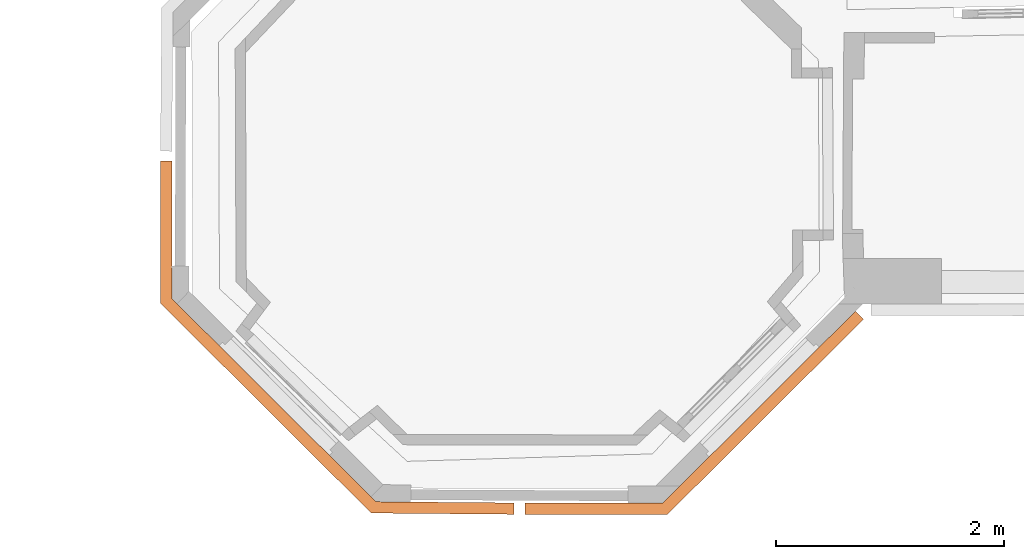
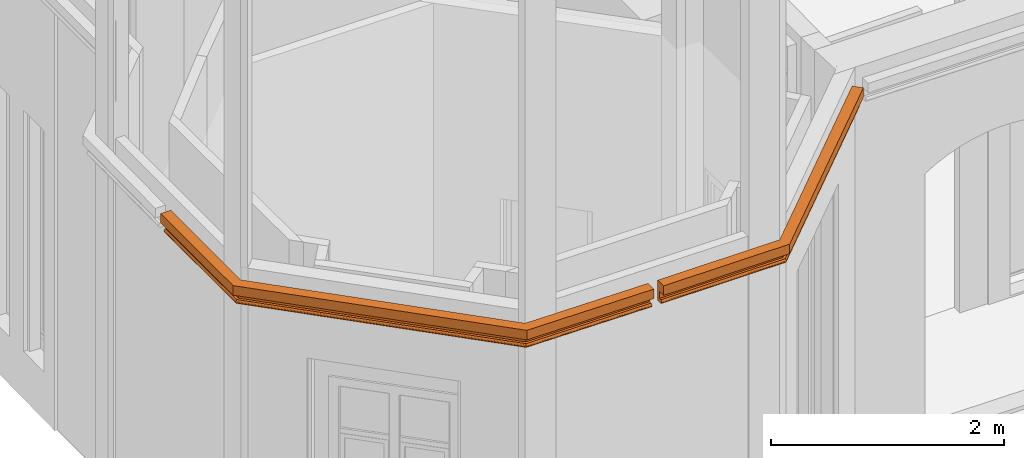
# One storey, part 83 of 97: 2 proxies.
"""IFC2X3 building model written with IfcOpenShell, lengths in centimetres."""

from ifc_helpers import new_model, entity, si_unit, converted_unit, direction, origin, origin_with_axes, place, context, subcontext, project, spatial, faceted_brep, material, type_object, element, save


model = new_model("IFC2X3")

# Units and contexts
model_context = context("Model", 3, precision=0.0001, world=origin(), true_north=direction((0.225632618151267, 0.974212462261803, 0.0)))
body_context = subcontext(model_context, "Body", "Model", "MODEL_VIEW")
ifc_project = project(units=[si_unit("LENGTHUNIT", "METRE", prefix="CENTI"), si_unit("AREAUNIT", "SQUARE_METRE", prefix="CENTI"), si_unit("VOLUMEUNIT", "CUBIC_METRE", prefix="CENTI"), converted_unit("PLANEANGLEUNIT", "DEGREE", entity("IfcRatioMeasure", 0.0174532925), si_unit("PLANEANGLEUNIT", "RADIAN"), dimensions=[0, 0, 0, 0, 0, 0, 0])], contexts=[model_context])

# Site, building, storey
site_placement = place(None, origin_with_axes())
site = spatial("IfcSite", under=ifc_project, at=site_placement, Name="Default Site", CompositionType="ELEMENT")
building_placement = place(site_placement, origin_with_axes())
building = spatial("IfcBuilding", under=site, at=building_placement, Name="Default Building", CompositionType="ELEMENT")
storey_placement = place(building_placement, origin_with_axes())
storey = spatial("IfcBuildingStorey", under=building, at=storey_placement, Name="Rez-de-chaussée", CompositionType="ELEMENT", Elevation=0.0)

# Proxies
ifc_material = material(Name="Aluminium mat")
building_element_proxy_type = type_object("IfcBuildingElementProxyType", Name="Corniche niv1", PredefinedType="NOTDEFINED", material=ifc_material)
proxy_1_placement = place(storey_placement, origin_with_axes())
element("IfcBuildingElementProxy", 1, at=proxy_1_placement, inside=storey, type_object=building_element_proxy_type, material=ifc_material, Name="Extrusion (solide) 954635", context=body_context, shape_type="Brep", body=[
    faceted_brep([(-833.801555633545, -1145.31154632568, 464.400005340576), (-829.677867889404, -1155.29775619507, 464.400005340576), (-658.041095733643, -984.409427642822, 464.400005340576), (-665.086936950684, -977.33268737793, 464.400005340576), (-829.677867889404, -1155.29775619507, 454.400014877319), (-658.041097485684, -984.409425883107, 454.400014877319), (-658.041097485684, -984.409425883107, 464.400005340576), (-832.562732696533, -1148.3115196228, 454.400014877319), (-662.97025680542, -979.458618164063, 454.400014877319), (-658.041095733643, -984.409427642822, 454.400014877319), (-832.562732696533, -1148.3115196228, 447.100019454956), (-662.97028115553, -979.458593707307, 447.100019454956), (-662.97028115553, -979.458593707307, 454.400014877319), (-831.543445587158, -1150.78001022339, 447.100019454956), (-661.228609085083, -981.207942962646, 447.100019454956), (-662.97025680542, -979.458618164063, 447.100019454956), (-831.396198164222, -1151.13649379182, 446.875572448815), (-660.977114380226, -981.460486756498, 446.875596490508), (-661.228622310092, -981.207929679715, 447.099989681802), (-831.396198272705, -1151.13649368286, 446.87557220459), (-831.268403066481, -1151.44605922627, 446.589903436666), (-660.758694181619, -981.679908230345, 446.589886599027), (-660.977106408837, -981.460494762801, 446.875601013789), (-831.268405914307, -1151.44605636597, 446.58989906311), (-831.164255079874, -1151.69831286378, 446.252546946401), (-660.580724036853, -981.858641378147, 446.252543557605), (-660.758700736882, -981.679901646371, 446.589883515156), (-831.164264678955, -1151.69830322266, 446.252536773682), (-831.087216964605, -1151.88473734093, 445.874827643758), (-660.449182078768, -981.990803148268, 445.874826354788), (-660.580731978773, -981.858633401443, 446.252535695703), (-831.087207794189, -1151.88474655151, 445.874834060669), (-831.039977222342, -1151.99921126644, 445.469484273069), (-660.368398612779, -982.071872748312, 445.469473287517), (-660.449177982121, -981.990807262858, 445.874831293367), (-831.040000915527, -1151.99918746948, 445.46947479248), (-831.024092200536, -1152.03779355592, 445.049998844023), (-660.341216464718, -982.099197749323, 445.049994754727), (-660.368427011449, -982.071844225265, 445.469470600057), (-831.024074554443, -1152.0378112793, 445.050001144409), (-831.039983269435, -1151.99920519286, 444.630525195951), (-660.368409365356, -982.071861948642, 444.630529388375), (-660.341198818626, -982.0992154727, 445.050005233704), (-831.040000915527, -1151.99918746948, 444.630527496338), (-831.087231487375, -1151.88472275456, 444.225177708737), (-660.449201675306, -981.990783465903, 444.225180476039), (-660.368422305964, -982.071848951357, 444.63053848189), (-831.087207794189, -1151.88474655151, 444.225168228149), (-831.164255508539, -1151.69831243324, 443.847459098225), (-660.580722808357, -981.858642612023, 443.847460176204), (-660.449172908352, -981.990812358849, 444.225169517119), (-831.164264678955, -1151.69830322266, 443.847465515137), (-831.268415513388, -1151.44604672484, 443.510113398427), (-660.758710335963, -981.679892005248, 443.510128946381), (-660.580733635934, -981.858631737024, 443.847468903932), (-831.268405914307, -1151.44605636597, 443.510103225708), (-831.396201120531, -1151.13649082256, 443.224434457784), (-660.977109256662, -981.460491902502, 443.224405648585), (-660.758697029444, -981.679905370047, 443.510120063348), (-831.396198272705, -1151.13649368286, 443.224430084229), (-831.543445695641, -1150.78001011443, 442.999983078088), (-661.228622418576, -981.207929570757, 443.000012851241), (-660.977114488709, -981.46048664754, 443.224406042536), (-831.543445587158, -1150.78001022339, 442.999982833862), (-833.801555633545, -1145.31154632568, 442.999982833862), (-665.086936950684, -977.33268737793, 442.999982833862), (-661.228609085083, -981.207942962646, 442.999982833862), (-665.08696794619, -977.332656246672, 464.400005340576), (-665.08696794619, -977.332656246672, 442.999982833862), (-954.650020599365, -1145.31154632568, 464.400005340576), (-954.650020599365, -1155.29775619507, 464.400005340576), (-954.650020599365, -1155.29775619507, 454.400014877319), (-954.650020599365, -1148.3115196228, 454.400014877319), (-954.650020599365, -1148.3115196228, 447.100019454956), (-954.650020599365, -1150.78001022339, 447.100019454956), (-954.650020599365, -1151.13650247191, 446.875586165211), (-831.396198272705, -1151.13650247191, 446.875586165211), (-954.650020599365, -1151.13649368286, 446.87557220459), (-954.650020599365, -1151.44604851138, 446.589890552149), (-831.268405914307, -1151.44604851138, 446.589890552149), (-954.650020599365, -1151.44605636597, 446.58989906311), (-954.650020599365, -1151.69830773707, 446.25254014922), (-831.164264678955, -1151.69830773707, 446.25254014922), (-954.650020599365, -1151.69830322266, 446.252536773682), (-954.650020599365, -1151.88477216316, 445.874846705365), (-831.087207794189, -1151.88477216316, 445.874846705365), (-954.650020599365, -1151.88474655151, 445.874834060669), (-954.650020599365, -1151.99918858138, 445.469475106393), (-831.040000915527, -1151.99918858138, 445.469475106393), (-954.650020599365, -1151.99918746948, 445.46947479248), (-954.650020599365, -1152.03777036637, 445.0499973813), (-831.024074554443, -1152.03777036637, 445.0499973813), (-954.650020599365, -1152.0378112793, 445.050001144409), (-954.650020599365, -1151.99922838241, 444.630523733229), (-831.040000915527, -1151.99922838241, 444.630523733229), (-954.650020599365, -1151.99918746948, 444.630527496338), (-954.650020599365, -1151.88474543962, 444.225168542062), (-831.087207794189, -1151.88474543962, 444.225168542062), (-954.650020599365, -1151.88474655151, 444.225168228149), (-954.650020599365, -1151.69827761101, 443.847478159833), (-831.164264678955, -1151.69827761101, 443.847478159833), (-954.650020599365, -1151.69830322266, 443.847465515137), (-954.650020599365, -1151.44605185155, 443.510106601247), (-831.268405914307, -1151.44605185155, 443.510106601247), (-954.650020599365, -1151.44605636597, 443.510103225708), (-954.650020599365, -1151.13650153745, 443.224421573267), (-831.396198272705, -1151.13650153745, 443.224421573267), (-954.650020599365, -1151.13649368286, 443.224430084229), (-954.650020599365, -1150.78000143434, 442.999996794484), (-831.543445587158, -1150.78000143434, 442.999996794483), (-831.396198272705, -1151.13649368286, 443.224430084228), (-954.650020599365, -1150.78001022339, 442.999982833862), (-954.650020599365, -1145.31154632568, 442.999982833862), (-658.041075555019, -984.409407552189, 464.400005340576), (-658.041075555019, -984.409407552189, 454.400014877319), (-662.970266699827, -979.458628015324, 454.400014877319), (-662.970266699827, -979.458628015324, 447.100019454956), (-661.228594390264, -981.207928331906, 447.100019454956), (-660.977136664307, -981.46048736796, 446.87557220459), (-660.7586752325, -981.679905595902, 446.58989906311), (-660.58072783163, -981.858632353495, 446.252536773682), (-660.44914661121, -981.990789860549, 445.874834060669), (-660.368404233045, -982.071885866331, 445.46947479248), (-660.341164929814, -982.099244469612, 445.050001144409), (-660.368404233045, -982.071885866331, 444.630527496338), (-660.44914661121, -981.990789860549, 444.225168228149), (-660.58072783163, -981.858632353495, 443.847465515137), (-660.7586752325, -981.679905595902, 443.510103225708), (-660.977136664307, -981.46048736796, 443.224430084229), (-661.228594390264, -981.207928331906, 442.999982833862)], [[[0, 1, 2, 3]], [[1, 4, 5, 6]], [[4, 7, 8, 9]], [[7, 10, 11, 12]], [[10, 13, 14, 15]], [[13, 16, 17, 18]], [[19, 20, 21, 22]], [[23, 24, 25, 26]], [[27, 28, 29, 30]], [[31, 32, 33, 34]], [[35, 36, 37, 38]], [[39, 40, 41, 42]], [[43, 44, 45, 46]], [[47, 48, 49, 50]], [[51, 52, 53, 54]], [[55, 56, 57, 58]], [[59, 60, 61, 62]], [[63, 64, 65, 66]], [[64, 0, 67, 68]], [[69, 70, 1, 0]], [[70, 71, 4, 1]], [[71, 72, 7, 4]], [[72, 73, 10, 7]], [[73, 74, 13, 10]], [[74, 75, 76, 13]], [[77, 78, 79, 19]], [[80, 81, 82, 23]], [[83, 84, 85, 27]], [[86, 87, 88, 31]], [[89, 90, 91, 35]], [[92, 93, 94, 39]], [[95, 96, 97, 43]], [[98, 99, 100, 47]], [[101, 102, 103, 51]], [[104, 105, 106, 55]], [[107, 108, 109, 110]], [[111, 112, 64, 63]], [[112, 69, 0, 64]], [[3, 113, 114, 115, 116, 117, 118, 119, 120, 121, 122, 123, 124, 125, 126, 127, 128, 129, 65]], [[112, 111, 107, 104, 101, 98, 95, 92, 89, 86, 83, 80, 77, 74, 73, 72, 71, 70, 69]]]),
])
proxy_2_placement = place(storey_placement, origin_with_axes())
element("IfcBuildingElementProxy", 2, at=proxy_2_placement, inside=storey, type_object=building_element_proxy_type, material=ifc_material, Name="Extrusion (solide) 954636", context=body_context, shape_type="Brep", body=[
    faceted_brep([(-1085.26344299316, -1144.26860809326, 464.400005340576), (-1089.42317962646, -1154.21876907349, 464.400005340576), (-964.19038772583, -1155.31587600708, 464.400005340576), (-964.102935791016, -1145.33004760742, 464.400005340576), (-1089.42317962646, -1154.21876907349, 454.400014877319), (-964.190387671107, -1155.31586976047, 454.400014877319), (-964.190387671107, -1155.31586976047, 464.400005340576), (-1086.51313781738, -1147.25770950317, 454.400014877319), (-964.129161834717, -1148.32992553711, 454.400014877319), (-964.19038772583, -1155.31587600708, 454.400014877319), (-1086.51313781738, -1147.25770950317, 447.100019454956), (-964.129161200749, -1148.32985317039, 447.100019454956), (-964.129161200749, -1148.32985317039, 454.400014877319), (-1087.5412940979, -1149.71733093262, 447.100019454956), (-964.150810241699, -1150.79822540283, 447.100019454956), (-964.129161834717, -1148.32992553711, 447.100019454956), (-1087.68978138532, -1150.07250166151, 446.875607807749), (-964.153957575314, -1151.15473264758, 446.875609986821), (-964.150810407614, -1150.79824434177, 447.10004953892), (-1087.68978118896, -1150.07247924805, 446.87557220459), (-1087.81871799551, -1150.38090197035, 446.589903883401), (-964.156627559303, -1151.46426061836, 446.589887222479), (-964.153957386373, -1151.15471108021, 446.875574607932), (-1087.81871795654, -1150.38089752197, 446.58989906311), (-1087.92381260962, -1150.63225678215, 446.252514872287), (-964.158820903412, -1151.71649528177, 446.252519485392), (-964.156627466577, -1151.46425003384, 446.589882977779), (-1087.92381286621, -1150.63228607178, 446.252536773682), (-1088.00153750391, -1150.81808247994, 445.874844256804), (-964.160537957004, -1151.90298881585, 445.874847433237), (-964.158821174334, -1151.71652620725, 446.252540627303), (-1088.001537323, -1150.81806182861, 445.874834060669), (-1088.04922079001, -1150.93209287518, 445.469466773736), (-964.161491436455, -1152.01740749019, 445.469476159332), (-964.160537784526, -1151.90296912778, 445.874836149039), (-1088.04922103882, -1150.93212127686, 445.46947479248), (-1088.06524285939, -1150.9705648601, 445.050002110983), (-964.161872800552, -1152.05601924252, 445.050000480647), (-964.161491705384, -1152.01743818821, 445.469478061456), (-1088.06524276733, -1150.97055435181, 445.050001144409), (-1088.04922094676, -1150.93211076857, 444.630528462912), (-964.161491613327, -1152.01742767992, 444.630525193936), (-964.161872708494, -1152.05600873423, 445.050002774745), (-1088.04922103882, -1150.93212127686, 444.630527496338), (-1088.00153757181, -1150.81809023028, 444.225160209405), (-964.160538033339, -1151.90299752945, 444.225158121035), (-964.161491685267, -1152.01743589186, 444.630518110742), (-1088.001537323, -1150.81806182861, 444.225168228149), (-1087.9238126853, -1150.63226542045, 443.847475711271), (-964.158820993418, -1151.71650555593, 443.84747185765), (-964.160537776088, -1151.90296816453, 444.225165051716), (-1087.92381286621, -1150.63228607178, 443.847465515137), (-1087.81871821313, -1150.3809268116, 443.510081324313), (-964.156627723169, -1151.46427932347, 443.510097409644), (-964.158821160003, -1151.71652457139, 443.847460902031), (-1087.81871795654, -1150.38089752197, 443.510103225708), (-1087.68978115, -1150.07247479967, 443.224434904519), (-964.153957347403, -1151.15470663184, 443.224432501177), (-964.156627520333, -1151.46425616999, 443.51011988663), (-1087.68978118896, -1150.07247924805, 443.224430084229), (-1087.54129390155, -1149.71730851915, 443.000018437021), (-964.150810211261, -1150.7982219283, 442.999988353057), (-964.153957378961, -1151.15471023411, 443.224427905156), (-1087.5412940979, -1149.71733093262, 442.999982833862), (-1085.26344299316, -1144.26860809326, 442.999982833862), (-964.102935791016, -1145.33004760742, 442.999982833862), (-964.150810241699, -1150.79822540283, 442.999982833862), (-964.102935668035, -1145.33003356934, 464.400005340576), (-964.102935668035, -1145.33003356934, 442.999982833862), (-1264.03398513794, -966.285133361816, 464.400005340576), (-1274.02019500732, -970.434474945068, 464.400005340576), (-1274.02019500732, -970.434474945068, 454.400014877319), (-1089.42315886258, -1154.21874821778, 454.400014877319), (-1089.42315886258, -1154.21874821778, 464.400005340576), (-1267.03405380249, -967.531585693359, 454.400014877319), (-1267.03405380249, -967.531585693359, 447.100019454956), (-1086.51312585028, -1147.25769748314, 447.100019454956), (-1086.51312585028, -1147.25769748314, 454.400014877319), (-1269.50254440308, -968.557262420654, 447.100019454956), (-1269.85894084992, -968.705471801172, 446.875591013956), (-1087.68979840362, -1150.07249653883, 446.875610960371), (-1087.54129752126, -1149.71733437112, 447.100027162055), (-1269.85893249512, -968.705463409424, 446.87557220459), (-1270.1685057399, -968.834029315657, 446.589915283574), (-1087.81873540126, -1150.38091504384, 446.589925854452), (-1087.68979550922, -1150.07249363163, 446.875594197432), (-1270.16849517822, -968.834018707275, 446.58989906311), (-1270.42074567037, -968.938831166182, 446.252540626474), (-1087.92380281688, -1150.63227597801, 446.252526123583), (-1087.81872854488, -1150.38090815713, 446.589910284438), (-1270.42074203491, -968.938827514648, 446.252536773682), (-1270.60723438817, -969.016314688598, 445.874801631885), (-1088.00151002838, -1150.81803441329, 445.874814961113), (-1087.92379448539, -1150.63226760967, 446.252523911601), (-1270.6072807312, -969.016361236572, 445.874834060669), (-1270.72174928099, -969.063881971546, 445.469485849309), (-1088.04922095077, -1150.93212118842, 445.469474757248), (-1088.0015573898, -1150.81808198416, 445.874842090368), (-1270.72172164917, -969.063854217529, 445.46947479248), (-1270.76028154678, -969.079907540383, 445.050005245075), (-1088.06524445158, -1150.9705560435, 445.050001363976), (-1088.04919311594, -1150.93209323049, 445.46947115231), (-1270.76025009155, -969.079875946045, 445.050001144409), (-1270.72169019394, -969.063822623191, 444.630531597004), (-1088.0491616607, -1150.93206163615, 444.630535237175), (-1088.06521299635, -1150.97052444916, 445.050005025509), (-1270.72172164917, -969.063854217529, 444.630527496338), (-1270.60725309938, -969.016333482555, 444.225179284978), (-1088.00152975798, -1150.81805423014, 444.225171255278), (-1088.04919331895, -1150.9320934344, 444.630538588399), (-1270.6072807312, -969.016361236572, 444.225168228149), (-1270.42078837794, -968.938874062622, 443.847433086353), (-1087.92384082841, -1150.63231415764, 443.847445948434), (-1088.00155637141, -1150.81808096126, 444.225154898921), (-1270.42074203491, -968.938827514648, 443.847465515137), (-1270.16849154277, -968.834015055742, 443.5101070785), (-1087.81872490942, -1150.3809045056, 443.510095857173), (-1087.92379918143, -1150.63227232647, 443.847480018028), (-1270.16849517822, -968.834018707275, 443.510103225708), (-1269.85892193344, -968.705452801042, 443.224446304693), (-1087.68978494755, -1150.07248302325, 443.22442431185), (-1087.81872483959, -1150.38090443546, 443.510092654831), (-1269.85893249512, -968.705463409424, 443.224430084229), (-1269.50253604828, -968.557254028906, 443.000001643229), (-1087.54128916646, -1149.71732597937, 442.99999393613), (-1087.68979004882, -1150.07248814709, 443.224410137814), (-1269.50254440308, -968.557262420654, 442.999982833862), (-1264.03398513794, -966.285133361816, 442.999982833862), (-1085.26342200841, -1144.26858701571, 464.400005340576), (-1085.26342200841, -1144.26858701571, 442.999982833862), (-1264.03398513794, -845.880031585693, 464.400005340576), (-1274.02019500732, -845.880031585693, 464.400005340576), (-1274.02019500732, -845.880031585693, 454.400014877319), (-1267.03405380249, -845.880031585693, 454.400014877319), (-1267.03405380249, -845.880031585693, 447.100019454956), (-1269.50254440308, -845.880031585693, 447.100019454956), (-1269.85896835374, -845.880031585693, 446.875629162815), (-1269.85896835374, -968.705463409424, 446.875629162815), (-1269.85893249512, -845.880031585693, 446.87557220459), (-1270.16848732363, -845.880031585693, 446.589890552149), (-1270.16848732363, -968.834018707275, 446.589890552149), (-1270.16849517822, -845.880031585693, 446.58989906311), (-1270.42074654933, -845.880031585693, 446.25254014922), (-1270.42074654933, -968.938827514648, 446.25254014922), (-1270.42074203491, -845.880031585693, 446.252536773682), (-1270.60722966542, -845.880031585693, 445.874808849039), (-1270.60722966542, -969.016361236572, 445.874808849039), (-1270.6072807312, -845.880031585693, 445.874834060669), (-1270.72172276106, -845.880031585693, 445.469475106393), (-1270.72172276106, -969.063854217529, 445.469475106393), (-1270.72172164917, -845.880031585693, 445.46947479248), (-1270.76030374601, -845.880031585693, 445.050006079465), (-1270.76030374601, -969.079875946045, 445.050006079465), (-1270.76025009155, -845.880031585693, 445.050001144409), (-1270.72166799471, -845.880031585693, 444.630532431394), (-1270.72166799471, -969.063854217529, 444.630532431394), (-1270.72172164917, -845.880031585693, 444.630527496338), (-1270.60727961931, -845.880031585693, 444.225168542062), (-1270.60727961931, -969.016361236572, 444.225168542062), (-1270.6072807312, -845.880031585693, 444.225168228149), (-1270.42079310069, -845.880031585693, 443.847440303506), (-1270.42079310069, -968.938827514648, 443.847440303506), (-1270.42074203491, -845.880031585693, 443.847465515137), (-1270.1684906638, -845.880031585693, 443.510106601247), (-1270.1684906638, -968.834018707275, 443.510106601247), (-1270.16849517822, -845.880031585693, 443.510103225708), (-1269.8589403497, -845.880031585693, 443.224421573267), (-1269.85894034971, -968.705463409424, 443.224421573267), (-1269.85893249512, -845.880031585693, 443.224430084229), (-1269.50250854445, -845.880031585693, 443.000039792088), (-1269.50250854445, -968.557262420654, 443.000039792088), (-1269.85893249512, -968.705463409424, 443.224430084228), (-1269.50254440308, -845.880031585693, 442.999982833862), (-1264.03398513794, -845.880031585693, 442.999982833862), (-964.190416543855, -1155.31587575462, 464.400005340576), (-964.190416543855, -1155.31587575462, 454.400014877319), (-964.129216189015, -1148.32992506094, 454.400014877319), (-964.129216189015, -1148.32992506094, 447.100019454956), (-964.150839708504, -1150.79822514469, 447.100019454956), (-964.153962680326, -1151.15470881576, 446.87557220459), (-964.156674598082, -1151.46427113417, 446.58989906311), (-964.158884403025, -1151.71651784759, 446.252536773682), (-964.160517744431, -1151.90296190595, 445.874834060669), (-964.161520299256, -1152.0174023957, 445.46947479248), (-964.161858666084, -1152.05602658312, 445.050001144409), (-964.161520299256, -1152.0174023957, 444.630527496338), (-964.160517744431, -1151.90296190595, 444.225168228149), (-964.158884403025, -1151.71651784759, 443.847465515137), (-964.156674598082, -1151.46427113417, 443.510103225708), (-964.153962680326, -1151.15470881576, 443.224430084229), (-964.150839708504, -1150.79822514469, 442.999982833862)], [[[0, 1, 2, 3]], [[1, 4, 5, 6]], [[4, 7, 8, 9]], [[7, 10, 11, 12]], [[10, 13, 14, 15]], [[13, 16, 17, 18]], [[19, 20, 21, 22]], [[23, 24, 25, 26]], [[27, 28, 29, 30]], [[31, 32, 33, 34]], [[35, 36, 37, 38]], [[39, 40, 41, 42]], [[43, 44, 45, 46]], [[47, 48, 49, 50]], [[51, 52, 53, 54]], [[55, 56, 57, 58]], [[59, 60, 61, 62]], [[63, 64, 65, 66]], [[64, 0, 67, 68]], [[69, 70, 1, 0]], [[70, 71, 72, 73]], [[71, 74, 7, 4]], [[74, 75, 76, 77]], [[75, 78, 13, 10]], [[78, 79, 80, 81]], [[82, 83, 84, 85]], [[86, 87, 88, 89]], [[90, 91, 92, 93]], [[94, 95, 96, 97]], [[98, 99, 100, 101]], [[102, 103, 104, 105]], [[106, 107, 108, 109]], [[110, 111, 112, 113]], [[114, 115, 116, 117]], [[118, 119, 120, 121]], [[122, 123, 124, 125]], [[126, 127, 64, 63]], [[127, 69, 128, 129]], [[130, 131, 70, 69]], [[131, 132, 71, 70]], [[132, 133, 74, 71]], [[133, 134, 75, 74]], [[134, 135, 78, 75]], [[135, 136, 137, 78]], [[138, 139, 140, 82]], [[141, 142, 143, 86]], [[144, 145, 146, 90]], [[147, 148, 149, 94]], [[150, 151, 152, 98]], [[153, 154, 155, 102]], [[156, 157, 158, 106]], [[159, 160, 161, 110]], [[162, 163, 164, 114]], [[165, 166, 167, 118]], [[168, 169, 170, 171]], [[172, 173, 127, 126]], [[173, 130, 69, 127]], [[3, 174, 175, 176, 177, 178, 179, 180, 181, 182, 183, 184, 185, 186, 187, 188, 189, 190, 65]], [[173, 172, 168, 165, 162, 159, 156, 153, 150, 147, 144, 141, 138, 135, 134, 133, 132, 131, 130]]]),
])

save(model, "model.ifc")
